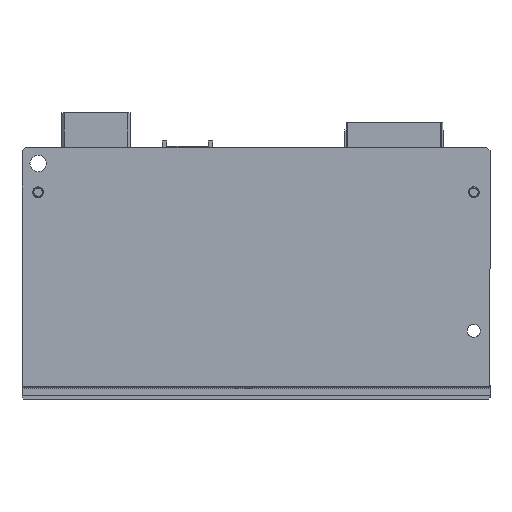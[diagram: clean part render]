
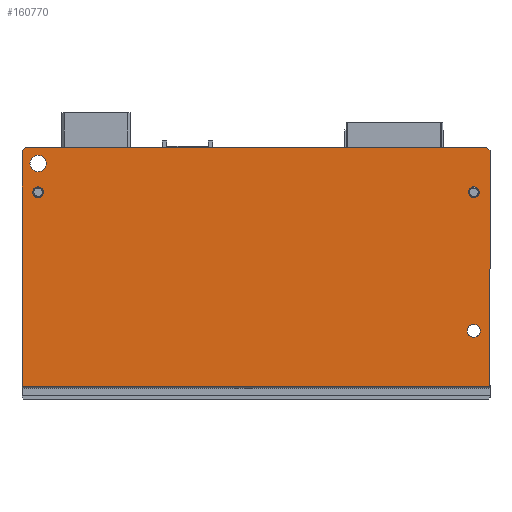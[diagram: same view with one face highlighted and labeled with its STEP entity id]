
A CAD part, front view. The second image highlights one B-rep face of the part: STEP entity #160770.
In plain terms, the highlighted planar face has unit normal (0, -1, 0).
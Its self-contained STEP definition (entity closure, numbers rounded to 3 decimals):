
#160031=CARTESIAN_POINT('',(-57.536,0.0,23.33));
#160032=VERTEX_POINT('',#160031);
#160033=CARTESIAN_POINT('',(-58.965,0.0,23.786));
#160034=DIRECTION('',(0.0,1.0,0.0));
#160035=DIRECTION('',(-0.952,0.0,0.305));
#160036=AXIS2_PLACEMENT_3D('',#160033,#160034,#160035);
#160037=CIRCLE('',#160036,1.5);
#160038=EDGE_CURVE('',#160032,#160032,#160037,.T.);
#160051=CARTESIAN_POINT('',(63.535,0.,23.786));
#160052=VERTEX_POINT('',#160051);
#160053=CARTESIAN_POINT('',(62.035,0.0,23.786));
#160054=DIRECTION('',(0.0,1.0,0.0));
#160055=DIRECTION('',(-1.0,0.0,0.0));
#160056=AXIS2_PLACEMENT_3D('',#160053,#160054,#160055);
#160057=CIRCLE('',#160056,1.5);
#160058=EDGE_CURVE('',#160052,#160052,#160057,.T.);
#160576=CARTESIAN_POINT('',(65.535,0.0,36.286));
#160577=VERTEX_POINT('',#160576);
#160584=CARTESIAN_POINT('',(66.535,0.0,35.286));
#160585=VERTEX_POINT('',#160584);
#160586=CARTESIAN_POINT('',(65.535,0.0,36.286));
#160587=DIRECTION('',(0.707,0.0,-0.707));
#160588=VECTOR('',#160587,1.414);
#160589=LINE('',#160586,#160588);
#160590=EDGE_CURVE('',#160577,#160585,#160589,.T.);
#160607=CARTESIAN_POINT('',(66.535,0.0,-30.214));
#160608=VERTEX_POINT('',#160607);
#160609=CARTESIAN_POINT('',(66.535,0.0,-30.214));
#160610=DIRECTION('',(0.0,0.0,1.0));
#160611=VECTOR('',#160610,65.5);
#160612=LINE('',#160609,#160611);
#160613=EDGE_CURVE('',#160608,#160585,#160612,.T.);
#160703=CARTESIAN_POINT('',(1.535,0.0,1.286));
#160704=DIRECTION('',(0.0,-1.0,0.0));
#160705=DIRECTION('',(0.0,0.0,-1.0));
#160706=AXIS2_PLACEMENT_3D('',#160703,#160704,#160705);
#160707=PLANE('',#160706);
#160708=ORIENTED_EDGE('',*,*,#160590,.F.);
#160709=CARTESIAN_POINT('',(-62.465,0.0,36.286));
#160710=VERTEX_POINT('',#160709);
#160711=CARTESIAN_POINT('',(65.535,0.0,36.286));
#160712=DIRECTION('',(-1.0,0.0,0.0));
#160713=VECTOR('',#160712,128.0);
#160714=LINE('',#160711,#160713);
#160715=EDGE_CURVE('',#160577,#160710,#160714,.T.);
#160716=ORIENTED_EDGE('',*,*,#160715,.T.);
#160717=CARTESIAN_POINT('',(-63.465,0.0,35.286));
#160718=VERTEX_POINT('',#160717);
#160719=CARTESIAN_POINT('',(-63.465,0.0,35.286));
#160720=DIRECTION('',(0.707,0.0,0.707));
#160721=VECTOR('',#160720,1.414);
#160722=LINE('',#160719,#160721);
#160723=EDGE_CURVE('',#160718,#160710,#160722,.T.);
#160724=ORIENTED_EDGE('',*,*,#160723,.F.);
#160725=CARTESIAN_POINT('',(-63.465,0.0,-30.214));
#160726=VERTEX_POINT('',#160725);
#160727=CARTESIAN_POINT('',(-63.465,0.0,35.286));
#160728=DIRECTION('',(0.0,0.0,-1.0));
#160729=VECTOR('',#160728,65.5);
#160730=LINE('',#160727,#160729);
#160731=EDGE_CURVE('',#160718,#160726,#160730,.T.);
#160732=ORIENTED_EDGE('',*,*,#160731,.T.);
#160733=CARTESIAN_POINT('',(66.535,0.0,-30.214));
#160734=DIRECTION('',(-1.0,0.0,0.0));
#160735=VECTOR('',#160734,130.0);
#160736=LINE('',#160733,#160735);
#160737=EDGE_CURVE('',#160608,#160726,#160736,.T.);
#160738=ORIENTED_EDGE('',*,*,#160737,.F.);
#160739=ORIENTED_EDGE('',*,*,#160613,.T.);
#160740=EDGE_LOOP('',(#160708,#160716,#160724,#160732,#160738,#160739));
#160741=FACE_OUTER_BOUND('',#160740,.T.);
#160742=ORIENTED_EDGE('',*,*,#160038,.T.);
#160743=EDGE_LOOP('',(#160742));
#160744=FACE_BOUND('',#160743,.T.);
#160745=ORIENTED_EDGE('',*,*,#160058,.T.);
#160746=EDGE_LOOP('',(#160745));
#160747=FACE_BOUND('',#160746,.T.);
#160748=CARTESIAN_POINT('',(-56.665,0.0,31.786));
#160749=VERTEX_POINT('',#160748);
#160750=CARTESIAN_POINT('',(-58.965,0.0,31.786));
#160751=DIRECTION('',(0.0,1.0,0.0));
#160752=DIRECTION('',(-1.0,0.0,0.0));
#160753=AXIS2_PLACEMENT_3D('',#160750,#160751,#160752);
#160754=CIRCLE('',#160753,2.3);
#160755=EDGE_CURVE('',#160749,#160749,#160754,.T.);
#160756=ORIENTED_EDGE('',*,*,#160755,.T.);
#160757=EDGE_LOOP('',(#160756));
#160758=FACE_BOUND('',#160757,.T.);
#160759=CARTESIAN_POINT('',(63.835,0.0,-14.714));
#160760=VERTEX_POINT('',#160759);
#160761=CARTESIAN_POINT('',(62.035,0.0,-14.714));
#160762=DIRECTION('',(0.0,1.0,0.0));
#160763=DIRECTION('',(-1.0,0.0,0.0));
#160764=AXIS2_PLACEMENT_3D('',#160761,#160762,#160763);
#160765=CIRCLE('',#160764,1.8);
#160766=EDGE_CURVE('',#160760,#160760,#160765,.T.);
#160767=ORIENTED_EDGE('',*,*,#160766,.T.);
#160768=EDGE_LOOP('',(#160767));
#160769=FACE_BOUND('',#160768,.T.);
#160770=ADVANCED_FACE('',(#160741,#160744,#160747,#160758,#160769),#160707,.T.);
